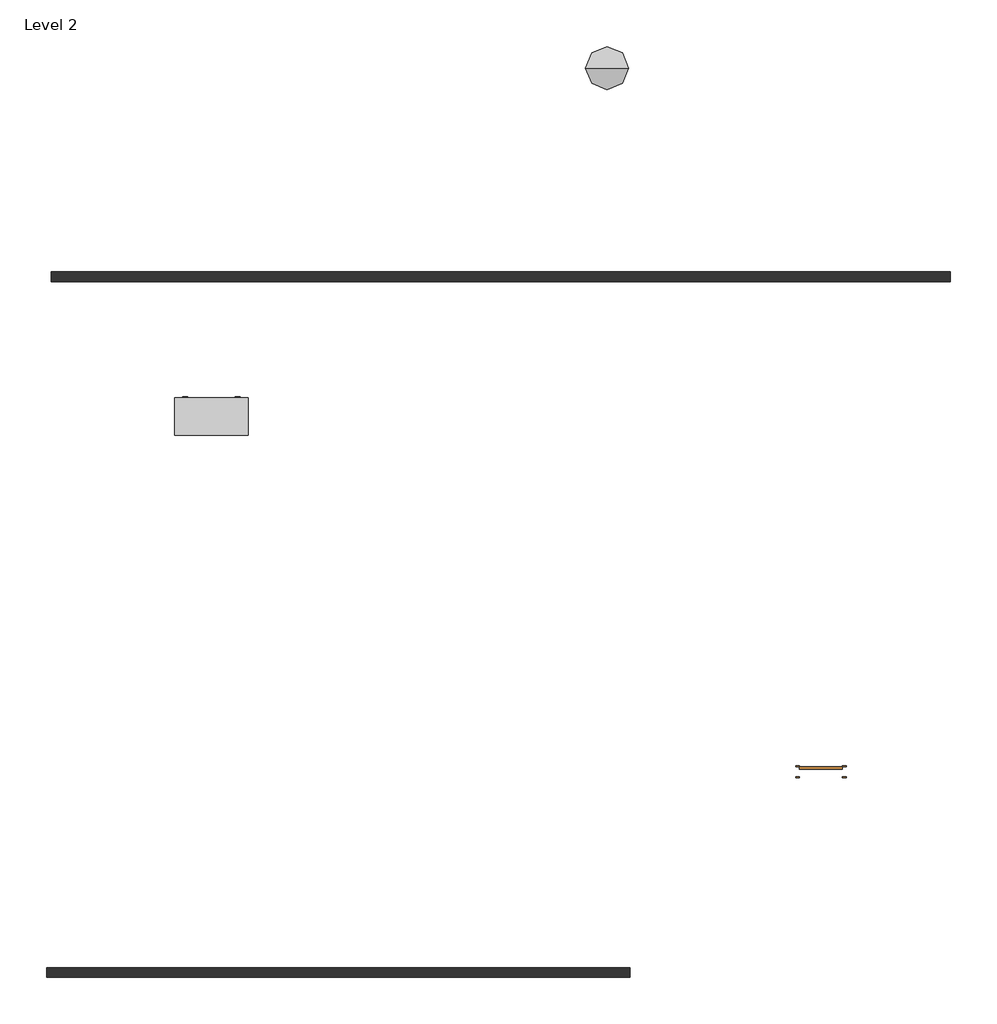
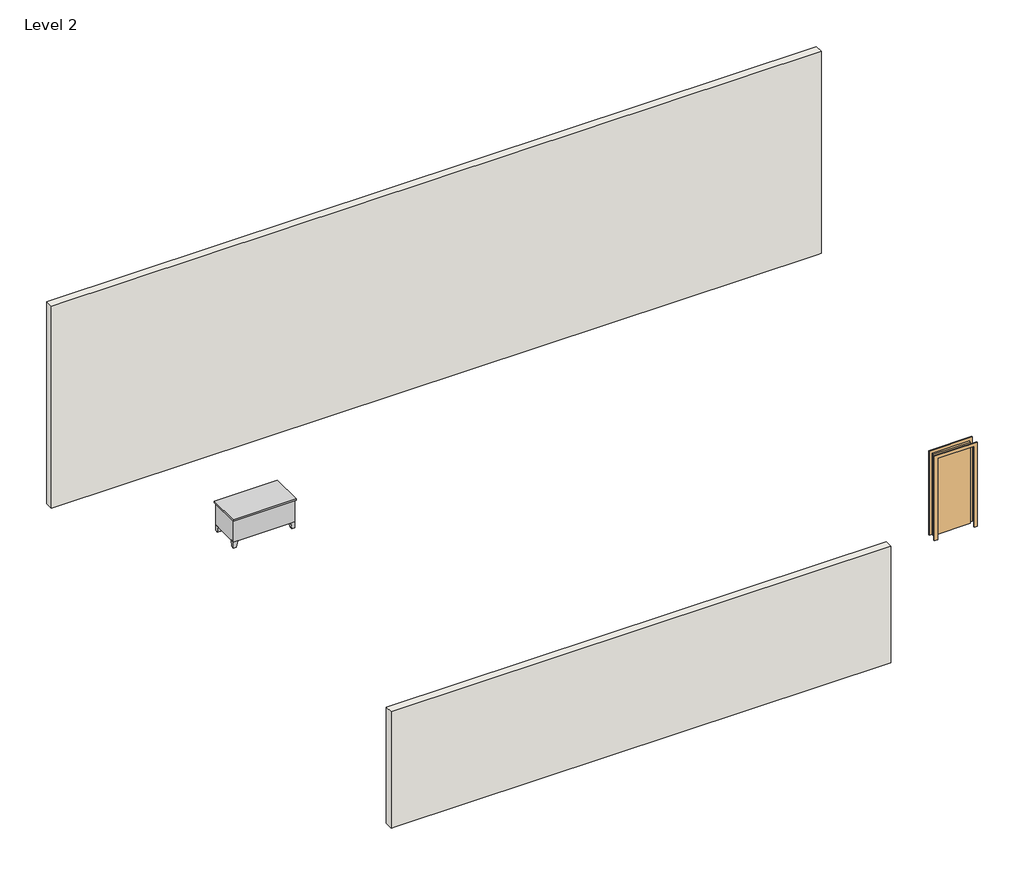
# One storey: 2 walls, 1 door, 1 furniture element, 1 geographic element.
"""IFC4 building model written with IfcOpenShell, lengths in millimetres."""

from ifc_helpers import new_model, si_unit, origin, place, context, project, spatial, faceted_brep, transform, mapped, element, save
from components import door_54dd4da4, furniture_072f6425, geographic_element_e8c3bac9

model = new_model("IFC4")

# Units and contexts
model_context = context("Model", 3, world=origin())
ifc_project = project(units=[si_unit("LENGTHUNIT", "METRE", prefix="MILLI")], contexts=[model_context])

# Site, building, storey
site = spatial("IfcSite", under=ifc_project)
building = spatial("IfcBuilding", under=site)
storey = spatial("IfcBuildingStorey", under=building, Name="Level 2", Elevation=3048.0)

# Door
placement = place(None, origin())
door_shape = door_54dd4da4(model_context)
element("IfcDoor", 1, ObjectType="Single-Flush : 36\" x 84\"", at=placement, inside=storey, context=model_context, shape_type="MappedRepresentation", body=[
    mapped(door_shape, transform((2679.6980806, -1734.080369, 3048.0), x_axis=(1.0, 0.0, 0.0), y_axis=(0.0, 1.0, 0.0), z_axis=(0.0, 0.0, 1.0))),
])

# Furniture
furniture_shape = furniture_072f6425(model_context)
element("IfcFurniture", 2, ObjectType="Desk : 60\" x 30\"", at=placement, inside=storey, context=model_context, shape_type="MappedRepresentation", body=[
    mapped(furniture_shape, transform((-11036.3019194, 5428.719631, 3048.0), x_axis=(1.0, 0.0, 0.0), y_axis=(0.0, 1.0, 0.0), z_axis=(0.0, 0.0, 1.0))),
])

# Geographic element
geographic_element_shape = geographic_element_e8c3bac9(model_context)
element("IfcGeographicElement", 3, ObjectType="Shubbery : Shubbery", at=placement, inside=storey, context=model_context, shape_type="MappedRepresentation", body=[
    mapped(geographic_element_shape, transform((-1864.5183381, 13213.8874183, 3048.0), x_axis=(1.0, 0.0, 0.0), y_axis=(0.0, 1.0, 0.0), z_axis=(0.0, 0.0, 1.0))),
])

# Walls
element("IfcWall", 4, ObjectType="Generic - 8\"", at=placement, inside=storey, context=model_context, shape_type="Brep", body=[
    faceted_brep([(-13677.9019194, 8679.919631, 3048.0), (5321.2980806, 8679.919631, 3048.0), (5422.8980806, 8679.919631, 3048.0), (5422.8980806, 8679.919631, 8345.7318304), (-13677.9019194, 8679.919631, 8345.7318304), (-13677.9019194, 8883.119631, 3048.0), (-13677.9019194, 8883.119631, 3657.6), (-13677.9019194, 8883.119631, 8345.7318304), (5422.8980806, 8883.119631, 8345.7318304), (5422.8980806, 8883.119631, 3048.0), (5321.2980806, 8883.119631, 3048.0)], [[[0, 1, 2, 3, 4]], [[5, 6, 7, 8, 9, 10]], [[2, 1, 0, 5, 10, 9]], [[3, 2, 9, 8]], [[4, 3, 8, 7]], [[0, 4, 7, 6, 5]]]),
])
element("IfcWall", 5, ObjectType="Generic - 8\"", at=placement, inside=storey, context=model_context, shape_type="Brep", body=[
    faceted_brep([(-13779.5019194, -6102.880369, 3657.6), (-13677.9019194, -6102.880369, 3657.6), (-1384.3019194, -6102.880369, 3657.6), (-1384.3019194, -6102.880369, 4572.0), (-1384.3019194, -6102.880369, 6705.6), (-13779.5019194, -6102.880369, 6705.6), (-13779.5019194, -5899.680369, 3657.6), (-13779.5019194, -5899.680369, 6705.6), (-1384.3019194, -5899.680369, 6705.6), (-1384.3019194, -5899.680369, 3657.6), (-13677.9019194, -5899.680369, 3657.6)], [[[0, 1, 2, 3, 4, 5]], [[6, 7, 8, 9, 10]], [[2, 1, 0, 6, 10, 9]], [[5, 4, 8, 7]], [[0, 5, 7, 6]], [[4, 3, 2, 9, 8]]]),
])

save(model, "model.ifc")
